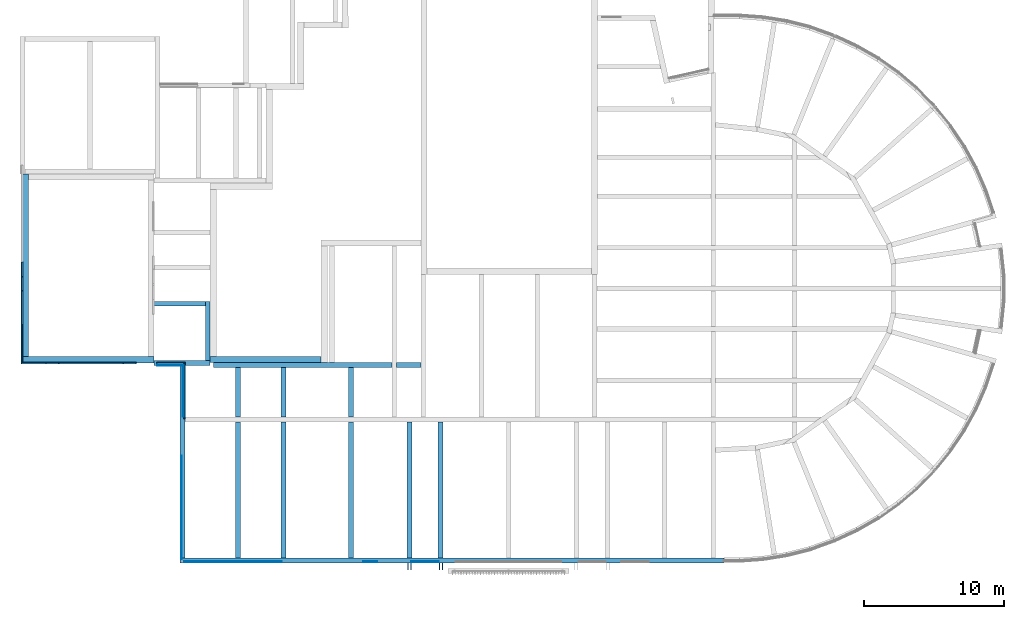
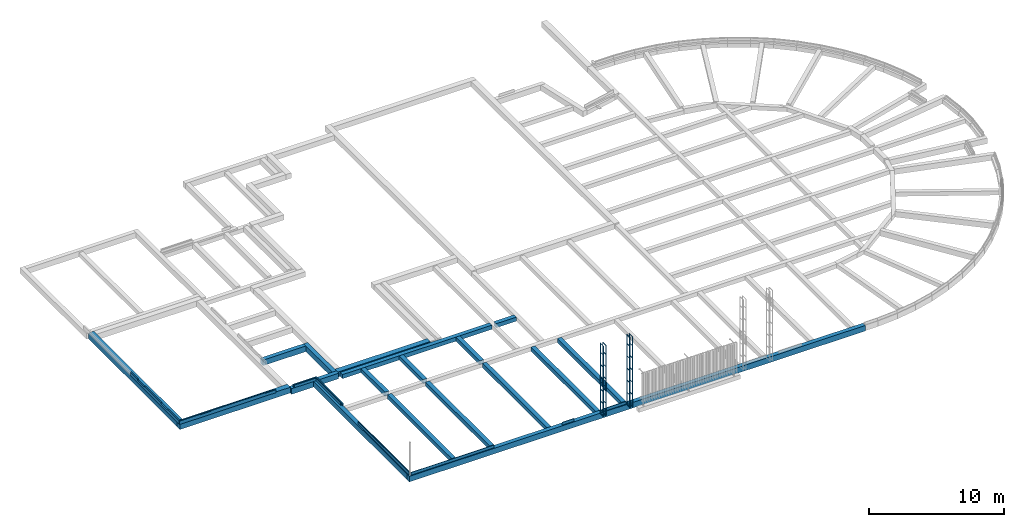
# One storey, part 1 of 11: 28 walls, 4 openings.
"""IFC2X3 building model written with IfcOpenShell, lengths in millimetres."""

from ifc_helpers import new_model, entity, si_unit, converted_unit, derived_unit, direction, frame, frame_2d, origin, origin_2d_with_axis, place, context, subcontext, project, spatial, polyline, rectangle, extrude, clip, bounded_halfspace, material, layer, layer_set, layer_usage, type_object, element, save


model = new_model("IFC2X3")

# Units and contexts
model_context = context("Model", 3, precision=0.01, world=origin(), true_north=direction((6.12303176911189e-17, 1.0)))
body_context = subcontext(model_context, "Body", "Model", "MODEL_VIEW")
ifc_project = project(units=[si_unit("LENGTHUNIT", "METRE", prefix="MILLI"), si_unit("AREAUNIT", "SQUARE_METRE"), si_unit("VOLUMEUNIT", "CUBIC_METRE"), converted_unit("PLANEANGLEUNIT", "DEGREE", entity("IfcRatioMeasure", 0.0174532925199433), si_unit("PLANEANGLEUNIT", "RADIAN"), dimensions=[0, 0, 0, 0, 0, 0, 0]), si_unit("MASSUNIT", "GRAM", prefix="KILO"), derived_unit("MASSDENSITYUNIT", [(si_unit("MASSUNIT", "GRAM", prefix="KILO"), 1), (si_unit("LENGTHUNIT", "METRE"), -3)]), derived_unit("MOMENTOFINERTIAUNIT", [(si_unit("LENGTHUNIT", "METRE"), 4)]), si_unit("TIMEUNIT", "SECOND"), si_unit("FREQUENCYUNIT", "HERTZ"), si_unit("THERMODYNAMICTEMPERATUREUNIT", "DEGREE_CELSIUS"), derived_unit("THERMALTRANSMITTANCEUNIT", [(si_unit("MASSUNIT", "GRAM", prefix="KILO"), 1), (si_unit("THERMODYNAMICTEMPERATUREUNIT", "KELVIN"), -1), (si_unit("TIMEUNIT", "SECOND"), -3)]), derived_unit("VOLUMETRICFLOWRATEUNIT", [(si_unit("LENGTHUNIT", "METRE"), 3), (si_unit("TIMEUNIT", "SECOND"), -1)]), si_unit("ELECTRICCURRENTUNIT", "AMPERE"), si_unit("ELECTRICVOLTAGEUNIT", "VOLT"), si_unit("POWERUNIT", "WATT"), si_unit("FORCEUNIT", "NEWTON", prefix="KILO"), si_unit("ILLUMINANCEUNIT", "LUX"), si_unit("LUMINOUSFLUXUNIT", "LUMEN"), si_unit("LUMINOUSINTENSITYUNIT", "CANDELA"), derived_unit("USERDEFINED", [(si_unit("MASSUNIT", "GRAM", prefix="KILO"), -1), (si_unit("LENGTHUNIT", "METRE"), -2), (si_unit("TIMEUNIT", "SECOND"), 3), (si_unit("LUMINOUSFLUXUNIT", "LUMEN"), 1)]), derived_unit("LINEARVELOCITYUNIT", [(si_unit("LENGTHUNIT", "METRE"), 1), (si_unit("TIMEUNIT", "SECOND"), -1)]), si_unit("PRESSUREUNIT", "PASCAL"), derived_unit("USERDEFINED", [(si_unit("LENGTHUNIT", "METRE"), -2), (si_unit("MASSUNIT", "GRAM", prefix="KILO"), 1), (si_unit("TIMEUNIT", "SECOND"), -2)]), derived_unit("LINEARFORCEUNIT", [(si_unit("MASSUNIT", "GRAM", prefix="KILO"), 1), (si_unit("LENGTHUNIT", "METRE"), 1), (si_unit("TIMEUNIT", "SECOND"), -2), (si_unit("LENGTHUNIT", "METRE"), -1)]), derived_unit("PLANARFORCEUNIT", [(si_unit("MASSUNIT", "GRAM", prefix="KILO"), 1), (si_unit("LENGTHUNIT", "METRE"), 1), (si_unit("TIMEUNIT", "SECOND"), -2), (si_unit("LENGTHUNIT", "METRE"), -2)])], contexts=[model_context])

# Site, building, storey
site_placement = place(None, origin())
site = spatial("IfcSite", under=ifc_project, at=site_placement, Name="Default", CompositionType="ELEMENT")
building_placement = place(site_placement, origin())
building = spatial("IfcBuilding", under=site, at=building_placement, Name="-", CompositionType="ELEMENT")
storey_placement = place(building_placement, frame((0.0, 0.0, -780.0)))
storey = spatial("IfcBuildingStorey", under=building, at=storey_placement, Name="ok. fundering", CompositionType="ELEMENT", Elevation=-780.0)

# Walls
ifc_material_1 = material(Name="NLRS_n7_Kooltherm Resol hardschuim 0.02 (0.1)_Kingspan")
ifc_layer_1 = layer(ifc_material_1, 105.0)
ifc_layer_set_1 = layer_set([ifc_layer_1], Name="Basic Wall:NLRS_22_WA_LB_isolatie Kooltherm K8 105mm_Kingspan_BO")
ifc_layer_usage_1 = layer_usage(ifc_layer_set_1, "AXIS2", "NEGATIVE", 52.5)
wall_type_1 = type_object("IfcWallType", Name="Basic Wall:NLRS_22_WA_LB_isolatie Kooltherm K8 105mm_Kingspan_BO", PredefinedType="STANDARD", material=ifc_layer_set_1)
wall_1_placement = place(storey_placement, frame((11571.0, 10291.820250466, 520.0), z_axis=(0.0, 0.0, 1.0), x_axis=(0.0, 1.0, 0.0)))
element("IfcWallStandardCase", 1, at=wall_1_placement, inside=storey, type_object=wall_type_1, material=ifc_layer_usage_1, Name="Basic Wall:NLRS_22_WA_LB_isolatie Kooltherm K8 105mm_Kingspan_BO", ObjectType="Basic Wall:NLRS_22_WA_LB_isolatie Kooltherm K8 105mm_Kingspan_BO", context=body_context, shape_type="SweptSolid", body=[
    extrude(rectangle(XDim=4028.30384493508, YDim=105.000000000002, at=frame_2d((2014.15192246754, -1.77635683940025e-13), x_axis=(-1.0, 0.0))), origin(), (0.0, 0.0, 1.0), 181.999999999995),
])
ifc_layer_usage_2 = layer_usage(ifc_layer_set_1, "AXIS2", "NEGATIVE", 52.5)
wall_2_placement = place(storey_placement, frame((11518.4999999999, 14267.6240954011, 520.0), z_axis=(0.0, 0.0, 1.0), x_axis=(-1.0, 0.0, 0.0)))
element("IfcWallStandardCase", 2, at=wall_2_placement, inside=storey, type_object=wall_type_1, material=ifc_layer_usage_2, Name="Basic Wall:NLRS_22_WA_LB_isolatie Kooltherm K8 105mm_Kingspan_BO", ObjectType="Basic Wall:NLRS_22_WA_LB_isolatie Kooltherm K8 105mm_Kingspan_BO", context=body_context, shape_type="SweptSolid", body=[
    extrude(rectangle(XDim=1944.99999999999, YDim=105.000000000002, at=frame_2d((972.499999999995, -9.2370555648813e-14), x_axis=(-1.0, 0.0))), origin(), (0.0, 0.0, 1.0), 181.999999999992),
])
ifc_material_2 = material(Name="NLRS_g2_baksteen  rood genuanceerd Klamp")
ifc_layer_2 = layer(ifc_material_2, 50.0)
ifc_layer_set_2 = layer_set([ifc_layer_2], Name="Basic Wall:NLRS_20_WA_Metselwerk klamp, Eems wf-p-0081-25")
ifc_layer_usage_3 = layer_usage(ifc_layer_set_2, "AXIS2", "NEGATIVE", 25.0)
wall_type_2 = type_object("IfcWallType", Name="Basic Wall:NLRS_20_WA_Metselwerk klamp, Eems wf-p-0081-25", PredefinedType="STANDARD", material=ifc_layer_set_2)
wall_3_placement = place(storey_placement, frame((24330.8462249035, 81.1212223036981, 500.0)))
element("IfcWallStandardCase", 3, at=wall_3_placement, inside=storey, type_object=wall_type_2, material=ifc_layer_usage_3, Name="Basic Wall:NLRS_20_WA_Metselwerk klamp, Eems wf-p-0081-25", ObjectType="Basic Wall:NLRS_20_WA_Metselwerk klamp, Eems wf-p-0081-25", context=body_context, shape_type="SweptSolid", body=[
    extrude(rectangle(XDim=1029.0, YDim=50.0, at=frame_2d((514.499999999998, 0.0), x_axis=(-1.0, 0.0))), origin(), (0.0, 0.0, 1.0), 239.99999999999),
])
ifc_layer_usage_4 = layer_usage(ifc_layer_set_2, "AXIS2", "NEGATIVE", 25.0)
wall_4_placement = place(storey_placement, frame((27774.8462249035, 81.121222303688, 500.0)))
element("IfcWallStandardCase", 4, at=wall_4_placement, inside=storey, type_object=wall_type_2, material=ifc_layer_usage_4, Name="Basic Wall:NLRS_20_WA_Metselwerk klamp, Eems wf-p-0081-25", ObjectType="Basic Wall:NLRS_20_WA_Metselwerk klamp, Eems wf-p-0081-25", context=body_context, shape_type="SweptSolid", body=[
    extrude(rectangle(XDim=1980.00000000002, YDim=50.0, at=frame_2d((990.000000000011, -3.5527136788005e-15), x_axis=(-1.0, 0.0))), origin(), (0.0, 0.0, 1.0), 239.99999999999),
])
ifc_layer_usage_5 = layer_usage(ifc_layer_set_2, "AXIS2", "NEGATIVE", 25.0)
wall_5_placement = place(storey_placement, frame((9611.49999999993, 14125.3924332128, 500.0)))
element("IfcWallStandardCase", 5, at=wall_5_placement, inside=storey, type_object=wall_type_2, material=ifc_layer_usage_5, Name="Basic Wall:NLRS_20_WA_Metselwerk klamp, Eems wf-p-0081-25", ObjectType="Basic Wall:NLRS_20_WA_Metselwerk klamp, Eems wf-p-0081-25", context=body_context, shape_type="SweptSolid", body=[
    extrude(rectangle(XDim=1836.99999999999, YDim=50.0000000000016, at=frame_2d((918.499999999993, 0.0), x_axis=(-1.0, 0.0))), origin(), (0.0, 0.0, 1.0), 239.99999999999),
])
ifc_layer_usage_6 = layer_usage(ifc_layer_set_2, "AXIS2", "NEGATIVE", 25.0)
wall_6_placement = place(storey_placement, frame((11356.5104288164, 7665.12122230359, 500.0), z_axis=(0.0, 0.0, 1.0), x_axis=(0.0, -1.0, 0.0)))
element("IfcWallStandardCase", 6, at=wall_6_placement, inside=storey, type_object=wall_type_2, material=ifc_layer_usage_6, Name="Basic Wall:NLRS_20_WA_Metselwerk klamp, Eems wf-p-0081-25", ObjectType="Basic Wall:NLRS_20_WA_Metselwerk klamp, Eems wf-p-0081-25", context=body_context, shape_type="SweptSolid", body=[
    extrude(rectangle(XDim=7494.99999999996, YDim=50.0000000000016, at=frame_2d((3747.49999999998, 0.0), x_axis=(-1.0, 0.0))), origin(), (0.0, 0.0, 1.0), 249.99999999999),
])
ifc_layer_usage_7 = layer_usage(ifc_layer_set_2, "AXIS2", "NEGATIVE", 25.0)
wall_7_placement = place(storey_placement, frame((18525.6948343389, 81.1212223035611, 500.0), z_axis=(0.0, 0.0, 1.0), x_axis=(-1.0, 0.0, 0.0)))
element("IfcWallStandardCase", 7, at=wall_7_placement, inside=storey, type_object=wall_type_2, material=ifc_layer_usage_7, Name="Basic Wall:NLRS_20_WA_Metselwerk klamp, Eems wf-p-0081-25", ObjectType="Basic Wall:NLRS_20_WA_Metselwerk klamp, Eems wf-p-0081-25", context=body_context, shape_type="SweptSolid", body=[
    extrude(rectangle(XDim=7080.18440552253, YDim=50.0, at=frame_2d((3540.09220276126, -3.5527136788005e-15), x_axis=(-1.0, 0.0))), origin(), (0.0, 0.0, 1.0), 239.99999999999),
])
ifc_layer_usage_8 = layer_usage(ifc_layer_set_2, "AXIS2", "NEGATIVE", 25.0)
wall_8_placement = place(storey_placement, frame((11473.4999999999, 14125.3924332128, 500.0), z_axis=(0.0, 0.0, 1.0), x_axis=(0.0, -1.0, 0.0)))
element("IfcWallStandardCase", 8, at=wall_8_placement, inside=storey, type_object=wall_type_2, material=ifc_layer_usage_8, Name="Basic Wall:NLRS_20_WA_Metselwerk klamp, Eems wf-p-0081-25", ObjectType="Basic Wall:NLRS_20_WA_Metselwerk klamp, Eems wf-p-0081-25", context=body_context, shape_type="SweptSolid", body=[
    extrude(rectangle(XDim=3695.57218274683, YDim=50.0000000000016, at=frame_2d((1847.78609137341, 5.32907051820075e-13), x_axis=(-1.0, 0.0))), origin(), (0.0, 0.0, 1.0), 239.99999999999),
])
ifc_material_3 = material(Name="NLRS_f2_beton")
ifc_layer_3 = layer(ifc_material_3, 450.0)
ifc_layer_set_3 = layer_set([ifc_layer_3], Name="Basic Wall:NLRS_16_WA_funderingsbalk 450x...mm_gen_aly")
ifc_layer_usage_9 = layer_usage(ifc_layer_set_3, "AXIS2", "NEGATIVE", 225.0)
wall_type_3 = type_object("IfcWallType", Name="Basic Wall:NLRS_16_WA_funderingsbalk 450x...mm_gen_aly", PredefinedType="STANDARD", material=ifc_layer_set_3)
wall_9_placement = place(storey_placement, frame((-24.0239880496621, 14519.7401295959, 0.0)))
element("IfcWallStandardCase", 9, at=wall_9_placement, inside=storey, type_object=wall_type_3, material=ifc_layer_usage_9, Name="Basic Wall:NLRS_16_WA_funderingsbalk 450x...mm_gen_aly", ObjectType="Basic Wall:NLRS_16_WA_funderingsbalk 450x...mm_gen_aly", context=body_context, shape_type="SweptSolid", body=[
    extrude(rectangle(XDim=9414.05425748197, YDim=450.000000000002, at=frame_2d((4707.02712874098, -4.68958205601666e-13), x_axis=(-1.0, 0.0))), origin(), (0.0, 0.0, 1.0), 519.999999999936),
])
ifc_layer_usage_10 = layer_usage(ifc_layer_set_3, "AXIS2", "NEGATIVE", 225.0)
wall_10_placement = place(storey_placement, frame((200.976011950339, 14744.7401295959, 0.0), z_axis=(0.0, 0.0, 1.0), x_axis=(0.0, 1.0, 0.0)))
element("IfcWallStandardCase", 10, at=wall_10_placement, inside=storey, type_object=wall_type_3, material=ifc_layer_usage_10, Name="Basic Wall:NLRS_16_WA_funderingsbalk 450x...mm_gen_aly", ObjectType="Basic Wall:NLRS_16_WA_funderingsbalk 450x...mm_gen_aly", context=body_context, shape_type="SweptSolid", body=[
    extrude(rectangle(XDim=13061.2464471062, YDim=450.0, at=frame_2d((6530.62322355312, 0.0), x_axis=(-1.0, 0.0))), origin(), (0.0, 0.0, 1.0), 519.999999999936),
])
ifc_layer_usage_11 = layer_usage(ifc_layer_set_3, "AXIS2", "NEGATIVE", 225.0)
wall_11_placement = place(storey_placement, frame((13400.0, 14531.888785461, 0.0)))
element("IfcWallStandardCase", 11, at=wall_11_placement, inside=storey, type_object=wall_type_3, material=ifc_layer_usage_11, Name="Basic Wall:NLRS_16_WA_funderingsbalk 450x...mm_gen_aly", ObjectType="Basic Wall:NLRS_16_WA_funderingsbalk 450x...mm_gen_aly", context=body_context, shape_type="SweptSolid", body=[
    extrude(rectangle(XDim=7938.99999999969, YDim=450.000000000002, at=frame_2d((3969.49999999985, -3.97903932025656e-13), x_axis=(-1.0, 0.0))), origin(), (0.0, 0.0, 1.0), 449.999999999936),
])
ifc_layer_4 = layer(ifc_material_3, 350.0)
ifc_layer_set_4 = layer_set([ifc_layer_4], Name="Basic Wall:NLRS_16_WA_funderingsbalk 350x...mm_gen_aly")
ifc_layer_usage_12 = layer_usage(ifc_layer_set_4, "AXIS2", "NEGATIVE", 175.0)
wall_type_4 = type_object("IfcWallType", Name="Basic Wall:NLRS_16_WA_funderingsbalk 350x...mm_gen_aly", PredefinedType="STANDARD", material=ifc_layer_set_4)
wall_12_placement = place(storey_placement, frame((50136.5104288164, 161.121222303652, 0.0), z_axis=(0.0, 0.0, 1.0), x_axis=(-1.0, 0.0, 0.0)))
element("IfcWallStandardCase", 12, at=wall_12_placement, inside=storey, type_object=wall_type_4, material=ifc_layer_usage_12, Name="Basic Wall:NLRS_16_WA_funderingsbalk 350x...mm_gen_aly", ObjectType="Basic Wall:NLRS_16_WA_funderingsbalk 350x...mm_gen_aly", context=body_context, shape_type="SweptSolid", body=[
    extrude(rectangle(XDim=38875.0, YDim=350.0, at=frame_2d((19437.5, -4.2632564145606e-14), x_axis=(-1.0, 0.0))), origin(), (0.0, 0.0, 1.0), 499.999999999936),
])
ifc_layer_usage_13 = layer_usage(ifc_layer_set_4, "AXIS2", "NEGATIVE", 175.0)
wall_13_placement = place(storey_placement, frame((11436.5104288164, 14103.3924332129, 0.0), z_axis=(0.0, 0.0, 1.0), x_axis=(0.0, -1.0, 0.0)))
element("IfcWallStandardCase", 13, at=wall_13_placement, inside=storey, type_object=wall_type_4, material=ifc_layer_usage_13, Name="Basic Wall:NLRS_16_WA_funderingsbalk 350x...mm_gen_aly", ObjectType="Basic Wall:NLRS_16_WA_funderingsbalk 350x...mm_gen_aly", context=body_context, shape_type="SweptSolid", body=[
    extrude(rectangle(XDim=13767.2712109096, YDim=349.999999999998, at=frame_2d((6883.6356054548, 8.10018718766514e-13), x_axis=(-1.0, 0.0))), origin(), (0.0, 0.0, 1.0), 499.999999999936),
])
ifc_layer_usage_14 = layer_usage(ifc_layer_set_4, "AXIS2", "NEGATIVE", 175.0)
wall_14_placement = place(storey_placement, frame((13400.0, 14278.3924332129, 0.0), z_axis=(0.0, 0.0, 1.0), x_axis=(-1.0, 0.0, 0.0)))
element("IfcWallStandardCase", 14, at=wall_14_placement, inside=storey, type_object=wall_type_4, material=ifc_layer_usage_14, Name="Basic Wall:NLRS_16_WA_funderingsbalk 350x...mm_gen_aly", ObjectType="Basic Wall:NLRS_16_WA_funderingsbalk 350x...mm_gen_aly", context=body_context, shape_type="SweptSolid", body=[
    extrude(rectangle(XDim=4009.96973056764, YDim=349.999999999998, at=frame_2d((2004.98486528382, -3.41060513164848e-13), x_axis=(-1.0, 0.0))), origin(), (0.0, 0.0, 1.0), 499.999999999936),
])
wall_15_placement = place(storey_placement, frame((15386.5104288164, 336.121222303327, 0.0), z_axis=(0.0, 0.0, 1.0), x_axis=(0.0, 1.0, 0.0)))
element("IfcWall", 15, at=wall_15_placement, inside=storey, type_object=wall_type_4, Name="Basic Wall:NLRS_16_WA_funderingsbalk 350x...mm_gen_aly", ObjectType="Basic Wall:NLRS_16_WA_funderingsbalk 350x...mm_gen_aly", context=body_context, shape_type="SweptSolid", body=[
    extrude(rectangle(XDim=9732.50287309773, YDim=350.000000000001, at=frame_2d((1.36424205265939e-12, 0.0), x_axis=(1.0, 0.0))), frame((4866.25143654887, 0.0, 0.0)), (0.0, 0.0, 1.0), 369.999999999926),
    extrude(rectangle(XDim=350.000000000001, YDim=3538.26469005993, at=frame_2d((0.0, 1.13686837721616e-12), x_axis=(1.0, 0.0))), frame((11851.6352181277, 0.0, 0.0), z_axis=(0.0, 0.0, 1.0), x_axis=(0.0, 1.0, 0.0)), (0.0, 0.0, 1.0), 369.999999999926),
])
wall_16_placement = place(storey_placement, frame((18632.6948343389, 336.121222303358, 0.0), z_axis=(0.0, 0.0, 1.0), x_axis=(0.0, 1.0, 0.0)))
element("IfcWall", 16, at=wall_16_placement, inside=storey, type_object=wall_type_4, Name="Basic Wall:NLRS_16_WA_funderingsbalk 350x...mm_gen_aly", ObjectType="Basic Wall:NLRS_16_WA_funderingsbalk 350x...mm_gen_aly", context=body_context, shape_type="SweptSolid", body=[
    extrude(rectangle(XDim=9732.50287309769, YDim=350.000000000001, at=frame_2d((4.54747350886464e-13, 0.0), x_axis=(1.0, 0.0))), frame((4866.25143654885, 0.0, 0.0)), (0.0, 0.0, 1.0), 369.999999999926),
    extrude(rectangle(XDim=350.000000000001, YDim=3538.26469005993, at=frame_2d((-1.09423581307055e-12, 2.1600499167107e-12), x_axis=(1.0, 0.0))), frame((11851.6352181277, 0.0, 0.0), z_axis=(0.0, 0.0, 1.0), x_axis=(0.0, 1.0, 0.0)), (0.0, 0.0, 1.0), 369.999999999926),
])
wall_17_placement = place(storey_placement, frame((23479.8345551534, 336.121222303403, 0.0), z_axis=(0.0, 0.0, 1.0), x_axis=(0.0, 1.0, 0.0)))
element("IfcWall", 17, at=wall_17_placement, inside=storey, type_object=wall_type_4, Name="Basic Wall:NLRS_16_WA_funderingsbalk 350x...mm_gen_aly", ObjectType="Basic Wall:NLRS_16_WA_funderingsbalk 350x...mm_gen_aly", context=body_context, shape_type="SweptSolid", body=[
    extrude(rectangle(XDim=9732.50287309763, YDim=349.999999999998, at=frame_2d((9.09494701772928e-13, 0.0), x_axis=(1.0, 0.0))), frame((4866.25143654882, 0.0, 0.0)), (0.0, 0.0, 1.0), 369.999999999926),
    extrude(rectangle(XDim=349.999999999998, YDim=3538.26469005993, at=frame_2d((0.0, 1.13686837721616e-12), x_axis=(1.0, 0.0))), frame((11851.6352181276, 0.0, 0.0), z_axis=(0.0, 0.0, 1.0), x_axis=(0.0, 1.0, 0.0)), (0.0, 0.0, 1.0), 369.999999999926),
])
ifc_layer_usage_15 = layer_usage(ifc_layer_set_4, "AXIS2", "NEGATIVE", 175.0)
wall_18_placement = place(storey_placement, frame((27634.6462249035, 336.121222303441, 0.0), z_axis=(0.0, 0.0, 1.0), x_axis=(0.0, 1.0, 0.0)))
element("IfcWallStandardCase", 18, at=wall_18_placement, inside=storey, type_object=wall_type_4, material=ifc_layer_usage_15, Name="Basic Wall:NLRS_16_WA_funderingsbalk 350x...mm_gen_aly", ObjectType="Basic Wall:NLRS_16_WA_funderingsbalk 350x...mm_gen_aly", context=body_context, shape_type="Clipping", body=[
    clip(extrude(rectangle(XDim=9732.50287309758, YDim=349.999999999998, at=frame_2d((4866.25143654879, 9.52127265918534e-13), x_axis=(-1.0, 0.0))), origin(), (0.0, 0.0, 1.0), 369.999999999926), bounded_halfspace(frame((0.0, -175.0, 370.0), z_axis=(0.0, 0.0, -1.0), x_axis=(1.0, 0.0, 0.0)), True, frame((0.0, -175.0, 370.0), z_axis=(0.0, 0.0, -1.0), x_axis=(1.0, 0.0, 0.0)), polyline([(0.0, 0.0), (0.0, -350.0), (9732.50287309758, -350.0), (9732.50287309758, 0.0), (0.0, 0.0)]))),
])
ifc_layer_usage_16 = layer_usage(ifc_layer_set_4, "AXIS2", "NEGATIVE", 175.0)
wall_19_placement = place(storey_placement, frame((29874.497615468, 336.121222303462, 0.0), z_axis=(0.0, 0.0, 1.0), x_axis=(0.0, 1.0, 0.0)))
element("IfcWallStandardCase", 19, at=wall_19_placement, inside=storey, type_object=wall_type_4, material=ifc_layer_usage_16, Name="Basic Wall:NLRS_16_WA_funderingsbalk 350x...mm_gen_aly", ObjectType="Basic Wall:NLRS_16_WA_funderingsbalk 350x...mm_gen_aly", context=body_context, shape_type="Clipping", body=[
    clip(extrude(rectangle(XDim=9732.50287309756, YDim=349.999999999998, at=frame_2d((4866.25143654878, 1.98951966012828e-13), x_axis=(-1.0, 0.0))), origin(), (0.0, 0.0, 1.0), 369.999999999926), bounded_halfspace(frame((0.0, -175.0, 370.0), z_axis=(0.0, 0.0, -1.0), x_axis=(1.0, 0.0, 0.0)), True, frame((0.0, -175.0, 370.0), z_axis=(0.0, 0.0, -1.0), x_axis=(1.0, 0.0, 0.0)), polyline([(0.0, 0.0), (0.0, -350.0), (9732.50287309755, -350.0), (9732.50287309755, 0.0), (0.0, 0.0)]))),
])
wall_20_placement = place(storey_placement, frame((13630.6948343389, 14131.888785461, 0.0)))
element("IfcWall", 20, at=wall_20_placement, inside=storey, type_object=wall_type_4, Name="Basic Wall:NLRS_16_WA_funderingsbalk 350x...mm_gen_aly", ObjectType="Basic Wall:NLRS_16_WA_funderingsbalk 350x...mm_gen_aly", context=body_context, shape_type="SweptSolid", body=[
    extrude(rectangle(XDim=12751.4510544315, YDim=350.000000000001, at=frame_2d((67.7736046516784, 58.3333333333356), x_axis=(1.0, 0.0))), frame((6307.9519225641, -58.3333333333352, 0.0)), (0.0, 0.0, 1.0), 369.999999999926),
    extrude(rectangle(XDim=1723.54894556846, YDim=350.000000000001, at=frame_2d((-2.1600499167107e-12, 0.0), x_axis=(1.0, 0.0))), frame((13963.2255272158, 0.0, 0.0), z_axis=(0.0, 0.0, 1.0), x_axis=(-1.0, 0.0, 0.0)), (0.0, 0.0, 1.0), 369.999999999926),
])
ifc_layer_usage_17 = layer_usage(ifc_layer_set_4, "AXIS2", "NEGATIVE", 175.0)
wall_21_placement = place(storey_placement, frame((13225.0, 14453.3924332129, 0.0), z_axis=(0.0, 0.0, 1.0), x_axis=(0.0, 1.0, 0.0)))
element("IfcWallStandardCase", 21, at=wall_21_placement, inside=storey, type_object=wall_type_4, material=ifc_layer_usage_17, Name="Basic Wall:NLRS_16_WA_funderingsbalk 350x...mm_gen_aly", ObjectType="Basic Wall:NLRS_16_WA_funderingsbalk 350x...mm_gen_aly", context=body_context, shape_type="SweptSolid", body=[
    extrude(rectangle(XDim=4234.92781725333, YDim=349.999999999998, at=frame_2d((2117.46390862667, 4.54747350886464e-13), x_axis=(-1.0, 0.0))), origin(), (0.0, 0.0, 1.0), 499.999999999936),
])
ifc_layer_usage_18 = layer_usage(ifc_layer_set_4, "AXIS2", "NEGATIVE", 175.0)
wall_22_placement = place(storey_placement, frame((9390.03026943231, 18513.3202504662, 0.0)))
element("IfcWallStandardCase", 22, at=wall_22_placement, inside=storey, type_object=wall_type_4, material=ifc_layer_usage_18, Name="Basic Wall:NLRS_16_WA_funderingsbalk 350x...mm_gen_aly", ObjectType="Basic Wall:NLRS_16_WA_funderingsbalk 350x...mm_gen_aly", context=body_context, shape_type="SweptSolid", body=[
    extrude(rectangle(XDim=3659.96973056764, YDim=349.999999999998, at=frame_2d((1829.98486528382, -8.5265128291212e-14), x_axis=(-1.0, 0.0))), origin(), (0.0, 0.0, 1.0), 499.999999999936),
])

# Wall, openings
ifc_material_4 = material(Name="NLRS_n7_isolatie PIR_gen")
ifc_layer_5 = layer(ifc_material_4, 100.0)
ifc_layer_set_5 = layer_set([ifc_layer_5], Name="Basic Wall:NLRS_22_WA_LB_isolatie PIR 100mm")
ifc_layer_usage_19 = layer_usage(ifc_layer_set_5, "AXIS2", "NEGATIVE", 50.0)
wall_type_5 = type_object("IfcWallType", Name="Basic Wall:NLRS_22_WA_LB_isolatie PIR 100mm", PredefinedType="STANDARD", material=ifc_layer_set_5)
wall_23_placement = place(storey_placement, frame((8106.21673416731, 14267.4419770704, 520.0), z_axis=(0.0, 0.0, 1.0), x_axis=(-1.0, 0.0, 0.0)))
wall_23 = element("IfcWallStandardCase", 23, at=wall_23_placement, inside=storey, type_object=wall_type_5, material=ifc_layer_usage_19, Name="Basic Wall:NLRS_22_WA_LB_isolatie PIR 100mm", ObjectType="Basic Wall:NLRS_22_WA_LB_isolatie PIR 100mm", context=body_context, shape_type="SweptSolid", body=[
    extrude(rectangle(XDim=8206.21673416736, YDim=99.9999999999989, at=frame_2d((4103.10836708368, -1.06581410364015e-14), x_axis=(-1.0, 0.0))), origin(), (0.0, 0.0, 1.0), 309.99999999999),
])
opening_1_placement = place(wall_23_placement, origin())
element("IfcOpeningElement", 24, at=opening_1_placement, cuts=wall_23, Name="Basic Wall:NLRS_22_WA_LB_isolatie PIR 100mm", ObjectType="Opening", context=body_context, shape_type="SweptSolid", body=[
    extrude(rectangle(XDim=49.9999999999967, YDim=927.977034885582, at=frame_2d((-1.4210854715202e-13, 7.49622586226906e-13), x_axis=(0.0, 1.0))), frame((5982.22927744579, 50.0, 285.0), z_axis=(0.0, -1.0, 0.0), x_axis=(-1.0, 0.0, 0.0)), (0.0, 0.0, 1.0), 100.0),
])
opening_2_placement = place(wall_23_placement, origin())
element("IfcOpeningElement", 25, at=opening_2_placement, cuts=wall_23, Name="Basic Wall:NLRS_22_WA_LB_isolatie PIR 100mm", ObjectType="Opening", context=body_context, shape_type="SweptSolid", body=[
    extrude(rectangle(XDim=50.0000000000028, YDim=926.484940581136, at=frame_2d((-5.40012479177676e-13, 0.0), x_axis=(0.0, 1.0))), frame((463.242470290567, 50.0, 285.0), z_axis=(0.0, -1.0, 0.0), x_axis=(-1.0, 0.0, 0.0)), (0.0, 0.0, 1.0), 100.0),
])

ifc_layer_usage_20 = layer_usage(ifc_layer_set_5, "AXIS2", "NEGATIVE", 50.0)
wall_24_placement = place(storey_placement, frame((-37.1070832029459, 21511.1409303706, 520.0), z_axis=(0.0, 0.0, 1.0), x_axis=(-0.00165943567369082, -0.999998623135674, 0.0)))
wall_24 = element("IfcWallStandardCase", 26, at=wall_24_placement, inside=storey, type_object=wall_type_5, material=ifc_layer_usage_20, Name="Basic Wall:NLRS_22_WA_LB_isolatie PIR 100mm", ObjectType="Basic Wall:NLRS_22_WA_LB_isolatie PIR 100mm", context=body_context, shape_type="SweptSolid", body=[
    extrude(rectangle(XDim=7181.25817856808, YDim=100.0, at=frame_2d((3590.62908928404, -1.4210854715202e-14), x_axis=(-1.0, 0.0))), origin(), (0.0, 0.0, 1.0), 309.99999999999),
])
opening_3_placement = place(wall_24_placement, origin())
element("IfcOpeningElement", 27, at=opening_3_placement, cuts=wall_24, Name="Basic Wall:NLRS_22_WA_LB_isolatie PIR 100mm", ObjectType="Opening", context=body_context, shape_type="SweptSolid", body=[
    extrude(rectangle(XDim=79.9999999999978, YDim=1024.91758646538, at=frame_2d((1.08002495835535e-12, 8.31335000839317e-13), x_axis=(0.0, 1.0))), frame((5023.87474780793, 50.0, 270.0), z_axis=(0.0, -1.0, 0.0), x_axis=(-1.0, 0.0, 0.0)), (0.0, 0.0, 1.0), 100.0),
])
opening_4_placement = place(wall_24_placement, origin())
element("IfcOpeningElement", 28, at=opening_4_placement, cuts=wall_24, Name="Basic Wall:NLRS_22_WA_LB_isolatie PIR 100mm", ObjectType="Opening", context=body_context, shape_type="SweptSolid", body=[
    extrude(rectangle(XDim=80.0, YDim=1025.70615160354, at=frame_2d((2.1600499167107e-12, 8.27782287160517e-13), x_axis=(0.0, 1.0))), frame((1568.83088184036, 50.0, 270.0), z_axis=(0.0, -1.0, 0.0), x_axis=(-1.0, 0.0, 0.0)), (0.0, 0.0, 1.0), 100.0),
])

# Walls
ifc_material_5 = material(Name="AL_31_Naaldhout (vuren)")
wall_type_6 = type_object("IfcWallType", Name="Bevestiging zinken kader dak8:Bevestiging zinken kader dak", PredefinedType="NOTDEFINED", material=ifc_material_5)
wall_25_placement = place(storey_placement, frame((27504.3462249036, -516.516507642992, 500.0), z_axis=(0.0, 0.0, 1.0), x_axis=(0.0, 1.0, 0.0)))
element("IfcWall", 29, at=wall_25_placement, inside=storey, type_object=wall_type_6, material=ifc_material_5, Name="Bevestiging zinken kader dak8:Bevestiging zinken kader dak", ObjectType="Bevestiging zinken kader dak8:Bevestiging zinken kader dak", context=body_context, shape_type="SweptSolid", body=[
    extrude(rectangle(XDim=38.0, YDim=57.9999999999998, at=frame_2d((-1.77635683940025e-15, 2.16537898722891e-12), x_axis=(1.0, 0.0))), frame((483.63772994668, -29.0, 0.0), z_axis=(0.0, 0.0, 1.0), x_axis=(-1.0, 0.0, 0.0)), (0.0, 0.0, 1.0), 6350.00000000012),
    extrude(rectangle(XDim=38.0000000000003, YDim=58.0000000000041, at=origin_2d_with_axis()), frame((19.0, -29.0, 0.0), z_axis=(0.0, 0.0, 1.0), x_axis=(-1.0, 0.0, 0.0)), (0.0, 0.0, 1.0), 6350.00000000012),
    extrude(rectangle(XDim=426.637729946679, YDim=58.0000000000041, at=frame_2d((0.0, -2.16537898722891e-12), x_axis=(1.0, 0.0))), frame((251.31886497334, -29.0, 0.0), z_axis=(0.0, 0.0, 1.0), x_axis=(-1.0, 0.0, 0.0)), (0.0, 0.0, 1.0), 38.0),
    extrude(rectangle(XDim=426.637729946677, YDim=58.0000000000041, at=frame_2d((0.0, -2.16537898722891e-12), x_axis=(1.0, 0.0))), frame((251.318864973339, -29.0, 1100.0), z_axis=(0.0, 0.0, 1.0), x_axis=(-1.0, 0.0, 0.0)), (0.0, 0.0, 1.0), 38.0),
    extrude(rectangle(XDim=426.637729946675, YDim=58.0000000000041, at=frame_2d((0.0, -2.16537898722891e-12), x_axis=(1.0, 0.0))), frame((251.318864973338, -29.0, 2200.0), z_axis=(0.0, 0.0, 1.0), x_axis=(-1.0, 0.0, 0.0)), (0.0, 0.0, 1.0), 38.0),
    extrude(rectangle(XDim=426.637729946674, YDim=58.0000000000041, at=frame_2d((1.4210854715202e-14, -2.16537898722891e-12), x_axis=(1.0, 0.0))), frame((251.318864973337, -29.0, 3300.0), z_axis=(0.0, 0.0, 1.0), x_axis=(-1.0, 0.0, 0.0)), (0.0, 0.0, 1.0), 38.0),
    extrude(rectangle(XDim=426.637729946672, YDim=58.0000000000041, at=frame_2d((0.0, -2.16537898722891e-12), x_axis=(1.0, 0.0))), frame((251.318864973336, -29.0, 4400.0), z_axis=(0.0, 0.0, 1.0), x_axis=(-1.0, 0.0, 0.0)), (0.0, 0.0, 1.0), 38.0),
    extrude(rectangle(XDim=426.637729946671, YDim=58.0000000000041, at=frame_2d((0.0, -2.16537898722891e-12), x_axis=(1.0, 0.0))), frame((251.318864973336, -29.0, 5500.0), z_axis=(0.0, 0.0, 1.0), x_axis=(-1.0, 0.0, 0.0)), (0.0, 0.0, 1.0), 38.0),
    extrude(rectangle(XDim=426.63772994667, YDim=58.0000000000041, at=frame_2d((0.0, -2.16537898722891e-12), x_axis=(1.0, 0.0))), frame((251.318864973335, -29.0, 6312.0), z_axis=(0.0, 0.0, 1.0), x_axis=(-1.0, 0.0, 0.0)), (0.0, 0.0, 1.0), 38.0),
])
wall_type_7 = type_object("IfcWallType", Name="Bevestiging zinken kader dak2:Bevestiging zinken kader dak", PredefinedType="NOTDEFINED", material=ifc_material_5)
wall_26_placement = place(storey_placement, frame((27715.8462249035, -514.34050857, 500.0), z_axis=(0.0, 0.0, 1.0), x_axis=(0.0, 1.0, 0.0)))
element("IfcWall", 30, at=wall_26_placement, inside=storey, type_object=wall_type_7, material=ifc_material_5, Name="Bevestiging zinken kader dak2:Bevestiging zinken kader dak", ObjectType="Bevestiging zinken kader dak2:Bevestiging zinken kader dak", context=body_context, shape_type="SweptSolid", body=[
    extrude(rectangle(XDim=38.0, YDim=57.9999999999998, at=frame_2d((-1.77635683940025e-15, -2.16537898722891e-12), x_axis=(1.0, 0.0))), frame((483.63772994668, -29.0, 0.0), z_axis=(0.0, 0.0, 1.0), x_axis=(-1.0, 0.0, 0.0)), (0.0, 0.0, 1.0), 6350.00000000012),
    extrude(rectangle(XDim=38.0000000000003, YDim=58.0000000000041, at=origin_2d_with_axis()), frame((19.0, -29.0, 0.0), z_axis=(0.0, 0.0, 1.0), x_axis=(-1.0, 0.0, 0.0)), (0.0, 0.0, 1.0), 6350.00000000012),
    extrude(rectangle(XDim=426.637729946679, YDim=58.0000000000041, at=frame_2d((0.0, -2.16537898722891e-12), x_axis=(1.0, 0.0))), frame((251.31886497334, -29.0, 0.0), z_axis=(0.0, 0.0, 1.0), x_axis=(-1.0, 0.0, 0.0)), (0.0, 0.0, 1.0), 38.0),
    extrude(rectangle(XDim=426.637729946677, YDim=58.0000000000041, at=frame_2d((0.0, -2.16537898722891e-12), x_axis=(1.0, 0.0))), frame((251.318864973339, -29.0, 1100.0), z_axis=(0.0, 0.0, 1.0), x_axis=(-1.0, 0.0, 0.0)), (0.0, 0.0, 1.0), 38.0),
    extrude(rectangle(XDim=426.637729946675, YDim=58.0000000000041, at=frame_2d((0.0, -2.16537898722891e-12), x_axis=(1.0, 0.0))), frame((251.318864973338, -29.0, 2200.0), z_axis=(0.0, 0.0, 1.0), x_axis=(-1.0, 0.0, 0.0)), (0.0, 0.0, 1.0), 38.0),
    extrude(rectangle(XDim=426.637729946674, YDim=58.0000000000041, at=frame_2d((1.4210854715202e-14, -2.16537898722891e-12), x_axis=(1.0, 0.0))), frame((251.318864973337, -29.0, 3300.0), z_axis=(0.0, 0.0, 1.0), x_axis=(-1.0, 0.0, 0.0)), (0.0, 0.0, 1.0), 38.0),
    extrude(rectangle(XDim=426.637729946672, YDim=58.0000000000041, at=frame_2d((0.0, -2.16537898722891e-12), x_axis=(1.0, 0.0))), frame((251.318864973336, -29.0, 4400.0), z_axis=(0.0, 0.0, 1.0), x_axis=(-1.0, 0.0, 0.0)), (0.0, 0.0, 1.0), 38.0),
    extrude(rectangle(XDim=426.637729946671, YDim=58.0000000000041, at=frame_2d((0.0, -2.16537898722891e-12), x_axis=(1.0, 0.0))), frame((251.318864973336, -29.0, 5500.0), z_axis=(0.0, 0.0, 1.0), x_axis=(-1.0, 0.0, 0.0)), (0.0, 0.0, 1.0), 38.0),
    extrude(rectangle(XDim=426.63772994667, YDim=58.0000000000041, at=frame_2d((0.0, -2.16537898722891e-12), x_axis=(1.0, 0.0))), frame((251.318864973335, -29.0, 6312.0), z_axis=(0.0, 0.0, 1.0), x_axis=(-1.0, 0.0, 0.0)), (0.0, 0.0, 1.0), 38.0),
])
wall_type_8 = type_object("IfcWallType", Name="Bevestiging zinken kader dak6:Bevestiging zinken kader dak", PredefinedType="NOTDEFINED", material=ifc_material_5)
wall_27_placement = place(storey_placement, frame((29765.8462249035, -516.516507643, 500.0), z_axis=(0.0, 0.0, 1.0), x_axis=(0.0, 1.0, 0.0)))
element("IfcWall", 31, at=wall_27_placement, inside=storey, type_object=wall_type_8, material=ifc_material_5, Name="Bevestiging zinken kader dak6:Bevestiging zinken kader dak", ObjectType="Bevestiging zinken kader dak6:Bevestiging zinken kader dak", context=body_context, shape_type="SweptSolid", body=[
    extrude(rectangle(XDim=38.0, YDim=57.9999999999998, at=frame_2d((-1.77635683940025e-15, 2.16537898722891e-12), x_axis=(1.0, 0.0))), frame((483.63772994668, -29.0, 0.0), z_axis=(0.0, 0.0, 1.0), x_axis=(-1.0, 0.0, 0.0)), (0.0, 0.0, 1.0), 6350.00000000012),
    extrude(rectangle(XDim=38.0000000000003, YDim=58.0000000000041, at=origin_2d_with_axis()), frame((19.0, -29.0, 0.0), z_axis=(0.0, 0.0, 1.0), x_axis=(-1.0, 0.0, 0.0)), (0.0, 0.0, 1.0), 6350.00000000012),
    extrude(rectangle(XDim=426.637729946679, YDim=58.0000000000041, at=frame_2d((0.0, 2.16537898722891e-12), x_axis=(1.0, 0.0))), frame((251.31886497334, -29.0, 0.0), z_axis=(0.0, 0.0, 1.0), x_axis=(-1.0, 0.0, 0.0)), (0.0, 0.0, 1.0), 38.0),
    extrude(rectangle(XDim=426.637729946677, YDim=58.0000000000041, at=frame_2d((0.0, 2.16537898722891e-12), x_axis=(1.0, 0.0))), frame((251.318864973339, -29.0, 1100.0), z_axis=(0.0, 0.0, 1.0), x_axis=(-1.0, 0.0, 0.0)), (0.0, 0.0, 1.0), 38.0),
    extrude(rectangle(XDim=426.637729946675, YDim=58.0000000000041, at=frame_2d((0.0, 2.16537898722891e-12), x_axis=(1.0, 0.0))), frame((251.318864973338, -29.0, 2200.0), z_axis=(0.0, 0.0, 1.0), x_axis=(-1.0, 0.0, 0.0)), (0.0, 0.0, 1.0), 38.0),
    extrude(rectangle(XDim=426.637729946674, YDim=58.0000000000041, at=frame_2d((1.4210854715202e-14, 2.16537898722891e-12), x_axis=(1.0, 0.0))), frame((251.318864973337, -29.0, 3300.0), z_axis=(0.0, 0.0, 1.0), x_axis=(-1.0, 0.0, 0.0)), (0.0, 0.0, 1.0), 38.0),
    extrude(rectangle(XDim=426.637729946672, YDim=58.0000000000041, at=frame_2d((0.0, 2.16537898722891e-12), x_axis=(1.0, 0.0))), frame((251.318864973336, -29.0, 4400.0), z_axis=(0.0, 0.0, 1.0), x_axis=(-1.0, 0.0, 0.0)), (0.0, 0.0, 1.0), 38.0),
    extrude(rectangle(XDim=426.637729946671, YDim=58.0000000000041, at=frame_2d((0.0, 2.16537898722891e-12), x_axis=(1.0, 0.0))), frame((251.318864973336, -29.0, 5500.0), z_axis=(0.0, 0.0, 1.0), x_axis=(-1.0, 0.0, 0.0)), (0.0, 0.0, 1.0), 38.0),
    extrude(rectangle(XDim=426.63772994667, YDim=58.0000000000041, at=frame_2d((0.0, 2.16537898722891e-12), x_axis=(1.0, 0.0))), frame((251.318864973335, -29.0, 6312.0), z_axis=(0.0, 0.0, 1.0), x_axis=(-1.0, 0.0, 0.0)), (0.0, 0.0, 1.0), 38.0),
])
wall_type_9 = type_object("IfcWallType", Name="Bevestiging zinken kader dak7:Bevestiging zinken kader dak", PredefinedType="NOTDEFINED", material=ifc_material_5)
wall_28_placement = place(storey_placement, frame((29977.3462249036, -516.516507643, 500.0), z_axis=(0.0, 0.0, 1.0), x_axis=(0.0, 1.0, 0.0)))
element("IfcWall", 32, at=wall_28_placement, inside=storey, type_object=wall_type_9, material=ifc_material_5, Name="Bevestiging zinken kader dak7:Bevestiging zinken kader dak", ObjectType="Bevestiging zinken kader dak7:Bevestiging zinken kader dak", context=body_context, shape_type="SweptSolid", body=[
    extrude(rectangle(XDim=38.0, YDim=57.9999999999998, at=frame_2d((-1.77635683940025e-15, 2.16537898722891e-12), x_axis=(1.0, 0.0))), frame((483.63772994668, -29.0, 0.0), z_axis=(0.0, 0.0, 1.0), x_axis=(-1.0, 0.0, 0.0)), (0.0, 0.0, 1.0), 6350.00000000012),
    extrude(rectangle(XDim=38.0000000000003, YDim=58.0000000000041, at=origin_2d_with_axis()), frame((19.0, -29.0, 0.0), z_axis=(0.0, 0.0, 1.0), x_axis=(-1.0, 0.0, 0.0)), (0.0, 0.0, 1.0), 6350.00000000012),
    extrude(rectangle(XDim=426.637729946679, YDim=58.0000000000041, at=frame_2d((-4.2632564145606e-14, 2.16537898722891e-12), x_axis=(1.0, 0.0))), frame((251.31886497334, -29.0, 0.0), z_axis=(0.0, 0.0, 1.0), x_axis=(-1.0, 0.0, 0.0)), (0.0, 0.0, 1.0), 38.0),
    extrude(rectangle(XDim=426.637729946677, YDim=58.0000000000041, at=frame_2d((-2.8421709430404e-14, 2.16537898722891e-12), x_axis=(1.0, 0.0))), frame((251.318864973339, -29.0, 1100.0), z_axis=(0.0, 0.0, 1.0), x_axis=(-1.0, 0.0, 0.0)), (0.0, 0.0, 1.0), 38.0),
    extrude(rectangle(XDim=426.637729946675, YDim=58.0000000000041, at=frame_2d((4.2632564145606e-14, 2.16537898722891e-12), x_axis=(1.0, 0.0))), frame((251.318864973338, -29.0, 2200.0), z_axis=(0.0, 0.0, 1.0), x_axis=(-1.0, 0.0, 0.0)), (0.0, 0.0, 1.0), 38.0),
    extrude(rectangle(XDim=426.637729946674, YDim=58.0000000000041, at=frame_2d((1.4210854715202e-14, 2.16537898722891e-12), x_axis=(1.0, 0.0))), frame((251.318864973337, -29.0, 3300.0), z_axis=(0.0, 0.0, 1.0), x_axis=(-1.0, 0.0, 0.0)), (0.0, 0.0, 1.0), 38.0),
    extrude(rectangle(XDim=426.637729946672, YDim=58.0000000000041, at=frame_2d((-4.2632564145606e-14, 2.16537898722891e-12), x_axis=(1.0, 0.0))), frame((251.318864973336, -29.0, 4400.0), z_axis=(0.0, 0.0, 1.0), x_axis=(-1.0, 0.0, 0.0)), (0.0, 0.0, 1.0), 38.0),
    extrude(rectangle(XDim=426.637729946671, YDim=58.0000000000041, at=frame_2d((-4.2632564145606e-14, 2.16537898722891e-12), x_axis=(1.0, 0.0))), frame((251.318864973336, -29.0, 5500.0), z_axis=(0.0, 0.0, 1.0), x_axis=(-1.0, 0.0, 0.0)), (0.0, 0.0, 1.0), 38.0),
    extrude(rectangle(XDim=426.63772994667, YDim=58.0000000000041, at=frame_2d((-4.2632564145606e-14, 2.16537898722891e-12), x_axis=(1.0, 0.0))), frame((251.318864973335, -29.0, 6312.0), z_axis=(0.0, 0.0, 1.0), x_axis=(-1.0, 0.0, 0.0)), (0.0, 0.0, 1.0), 38.0),
])

save(model, "model.ifc")
